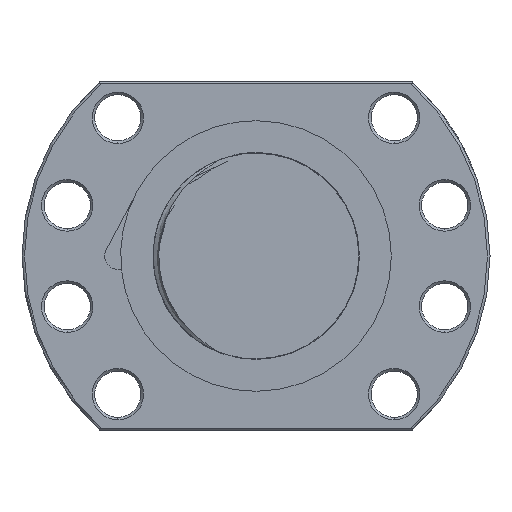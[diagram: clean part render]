
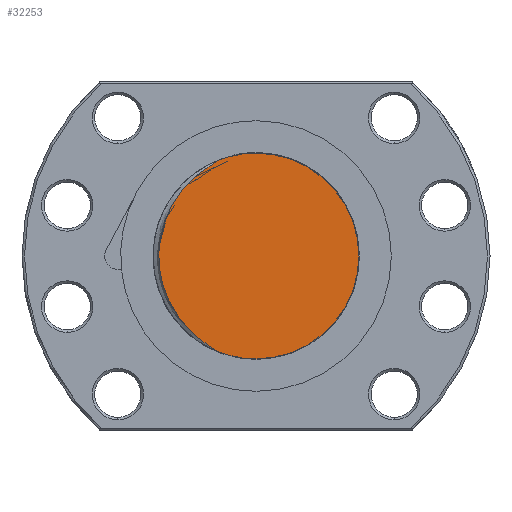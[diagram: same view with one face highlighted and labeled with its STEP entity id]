
A CAD part, left-side view. The second image highlights one B-rep face of the part: STEP entity #32253.
In plain terms, the highlighted planar face has unit normal (-1, 0, 0).
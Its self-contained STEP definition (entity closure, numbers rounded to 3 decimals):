
#1608 = CARTESIAN_POINT ( 'NONE',  ( -152., 0., -20. ) ) ;
#1963 = CARTESIAN_POINT ( 'NONE',  ( -152., 7.513, -18.535 ) ) ;
#1964 = CARTESIAN_POINT ( 'NONE',  ( -152., 7.915, -18.275 ) ) ;
#1965 = CARTESIAN_POINT ( 'NONE',  ( -152., 8.32, -18.02 ) ) ;
#1966 = CARTESIAN_POINT ( 'NONE',  ( -152., 9.118, -17.494 ) ) ;
#1967 = CARTESIAN_POINT ( 'NONE',  ( -152., 9.514, -17.223 ) ) ;
#1968 = CARTESIAN_POINT ( 'NONE',  ( -152., 10.675, -16.382 ) ) ;
#1969 = CARTESIAN_POINT ( 'NONE',  ( -152., 11.415, -15.785 ) ) ;
#1970 = CARTESIAN_POINT ( 'NONE',  ( -152., 12.813, -14.505 ) ) ;
#1971 = CARTESIAN_POINT ( 'NONE',  ( -152., 13.47, -13.821 ) ) ;
#1972 = CARTESIAN_POINT ( 'NONE',  ( -152., 14.391, -12.727 ) ) ;
#1973 = CARTESIAN_POINT ( 'NONE',  ( -152., 14.688, -12.349 ) ) ;
#1974 = CARTESIAN_POINT ( 'NONE',  ( -152., 15.252, -11.577 ) ) ;
#1975 = CARTESIAN_POINT ( 'NONE',  ( -152., 15.52, -11.184 ) ) ;
#1976 = CARTESIAN_POINT ( 'NONE',  ( -152., 16.28, -9.981 ) ) ;
#1977 = CARTESIAN_POINT ( 'NONE',  ( -152., 16.73, -9.148 ) ) ;
#1978 = CARTESIAN_POINT ( 'NONE',  ( -152., 17.316, -7.851 ) ) ;
#1979 = CARTESIAN_POINT ( 'NONE',  ( -152., 17.497, -7.411 ) ) ;
#1980 = CARTESIAN_POINT ( 'NONE',  ( -152., 17.828, -6.515 ) ) ;
#1981 = CARTESIAN_POINT ( 'NONE',  ( -152., 17.979, -6.058 ) ) ;
#1982 = CARTESIAN_POINT ( 'NONE',  ( -152., 18.646, -3.77 ) ) ;
#1983 = CARTESIAN_POINT ( 'NONE',  ( -152., 18.914, -1.897 ) ) ;
#1984 = CARTESIAN_POINT ( 'NONE',  ( -152., 18.912, 0.499 ) ) ;
#1985 = CARTESIAN_POINT ( 'NONE',  ( -152., 18.894, 0.977 ) ) ;
#1986 = CARTESIAN_POINT ( 'NONE',  ( -152., 18.825, 1.926 ) ) ;
#1987 = CARTESIAN_POINT ( 'NONE',  ( -152., 18.774, 2.397 ) ) ;
#1988 = CARTESIAN_POINT ( 'NONE',  ( -152., 18.57, 3.803 ) ) ;
#1989 = CARTESIAN_POINT ( 'NONE',  ( -152., 18.368, 4.727 ) ) ;
#1990 = CARTESIAN_POINT ( 'NONE',  ( -152., 17.833, 6.553 ) ) ;
#1991 = CARTESIAN_POINT ( 'NONE',  ( -152., 17.497, 7.457 ) ) ;
#1992 = CARTESIAN_POINT ( 'NONE',  ( -152., 16.708, 9.19 ) ) ;
#1993 = CARTESIAN_POINT ( 'NONE',  ( -152., 16.254, 10.026 ) ) ;
#1994 = CARTESIAN_POINT ( 'NONE',  ( -152., 15.486, 11.235 ) ) ;
#1995 = CARTESIAN_POINT ( 'NONE',  ( -152., 15.215, 11.631 ) ) ;
#1996 = CARTESIAN_POINT ( 'NONE',  ( -152., 14.649, 12.4 ) ) ;
#1997 = CARTESIAN_POINT ( 'NONE',  ( -152., 14.354, 12.773 ) ) ;
#1998 = CARTESIAN_POINT ( 'NONE',  ( -152., 13.438, 13.856 ) ) ;
#1999 = CARTESIAN_POINT ( 'NONE',  ( -152., 12.783, 14.533 ) ) ;
#2000 = CARTESIAN_POINT ( 'NONE',  ( -152., 11.395, 15.802 ) ) ;
#2001 = CARTESIAN_POINT ( 'NONE',  ( -152., 10.66, 16.394 ) ) ;
#2002 = CARTESIAN_POINT ( 'NONE',  ( -152., 9.507, 17.229 ) ) ;
#2003 = CARTESIAN_POINT ( 'NONE',  ( -152., 9.113, 17.498 ) ) ;
#2004 = CARTESIAN_POINT ( 'NONE',  ( -152., 8.316, 18.023 ) ) ;
#2005 = CARTESIAN_POINT ( 'NONE',  ( -152., 7.911, 18.277 ) ) ;
#2006 = CARTESIAN_POINT ( 'NONE',  ( -152., 7.511, 18.536 ) ) ;
#2008 = B_SPLINE_CURVE_WITH_KNOTS ( 'NONE', 3,
 ( #2006, #2005, #2004, #2003, #2002, #2001, #2000, #1999, #1998, #1997, #1996, #1995, #1994, #1993, #1992, #1991, #1990, #1989, #1988, #1987, #1986, #1985, #1984, #1983, #1982, #1981, #1980, #1979, #1978, #1977, #1976, #1975, #1974, #1973, #1972, #1971, #1970, #1969, #1968, #1967, #1966, #1965, #1964, #1963 ),
 .UNSPECIFIED., .F., .F.,
 ( 4, 2, 2, 2, 2, 2, 2, 2, 2, 2, 2, 2, 2, 2, 2, 2, 2, 2, 2, 2, 2, 4 ),
 ( 0.02, 0.021, 0.023, 0.025, 0.028, 0.03, 0.031, 0.034, 0.036, 0.039, 0.041, 0.042, 0.048, 0.049, 0.05, 0.053, 0.055, 0.056, 0.059, 0.061, 0.063, 0.064 ),
 .UNSPECIFIED. ) ;
#23271 = CIRCLE ( 'NONE', #23287, 20. ) ;
#23287 = AXIS2_PLACEMENT_3D ( 'NONE', #23293, #23302, #23300 ) ;
#23293 = CARTESIAN_POINT ( 'NONE',  ( -152., 0., 0. ) ) ;
#23300 = DIRECTION ( 'NONE',  ( 0., 1., 0. ) ) ;
#23302 = DIRECTION ( 'NONE',  ( 1., 0., 0. ) ) ;
#24563 = CARTESIAN_POINT ( 'NONE',  ( -152., 7.511, 18.536 ) ) ;
#24564 = CARTESIAN_POINT ( 'NONE',  ( -152., 0., 20. ) ) ;
#32046 = EDGE_CURVE ( 'NONE', #34364, #33522, #37161, .T. ) ;
#32252 = ORIENTED_EDGE ( 'NONE', *, *, #34963, .F. ) ;
#32253 = ADVANCED_FACE ( 'NONE', ( #43618 ), #43558, .F. ) ;
#32254 = EDGE_LOOP ( 'NONE', ( #32252, #33505, #33210, #33211 ) ) ;
#33209 = EDGE_CURVE ( 'NONE', #34674, #36290, #2008, .T. ) ;
#33210 = ORIENTED_EDGE ( 'NONE', *, *, #36294, .F. ) ;
#33211 = ORIENTED_EDGE ( 'NONE', *, *, #32046, .F. ) ;
#33505 = ORIENTED_EDGE ( 'NONE', *, *, #33209, .T. ) ;
#33522 = VERTEX_POINT ( 'NONE', #1608 ) ;
#34364 = VERTEX_POINT ( 'NONE', #24564 ) ;
#34674 = VERTEX_POINT ( 'NONE', #24563 ) ;
#34963 = EDGE_CURVE ( 'NONE', #34674, #34364, #23271, .T. ) ;
#36290 = VERTEX_POINT ( 'NONE', #41411 ) ;
#36294 = EDGE_CURVE ( 'NONE', #33522, #36290, #41435, .T. ) ;
#37157 = DIRECTION ( 'NONE',  ( 0., 1., 0. ) ) ;
#37158 = DIRECTION ( 'NONE',  ( 1., 0., 0. ) ) ;
#37159 = CARTESIAN_POINT ( 'NONE',  ( -152., 0., 0. ) ) ;
#37160 = AXIS2_PLACEMENT_3D ( 'NONE', #37159, #37158, #37157 ) ;
#37161 = CIRCLE ( 'NONE', #37160, 20. ) ;
#41411 = CARTESIAN_POINT ( 'NONE',  ( -152., 7.513, -18.535 ) ) ;
#41427 = DIRECTION ( 'NONE',  ( 0., 1., 0. ) ) ;
#41428 = DIRECTION ( 'NONE',  ( 1., 0., 0. ) ) ;
#41429 = CARTESIAN_POINT ( 'NONE',  ( -152., 0., 0. ) ) ;
#41430 = AXIS2_PLACEMENT_3D ( 'NONE', #41429, #41428, #41427 ) ;
#41435 = CIRCLE ( 'NONE', #41430, 20. ) ;
#43554 = DIRECTION ( 'NONE',  ( 0., 0., -1. ) ) ;
#43555 = DIRECTION ( 'NONE',  ( 1., 0., 0. ) ) ;
#43556 = CARTESIAN_POINT ( 'NONE',  ( -152., 0., 0. ) ) ;
#43557 = AXIS2_PLACEMENT_3D ( 'NONE', #43556, #43555, #43554 ) ;
#43558 = PLANE ( 'NONE',  #43557 ) ;
#43618 = FACE_OUTER_BOUND ( 'NONE', #32254, .T. ) ;
